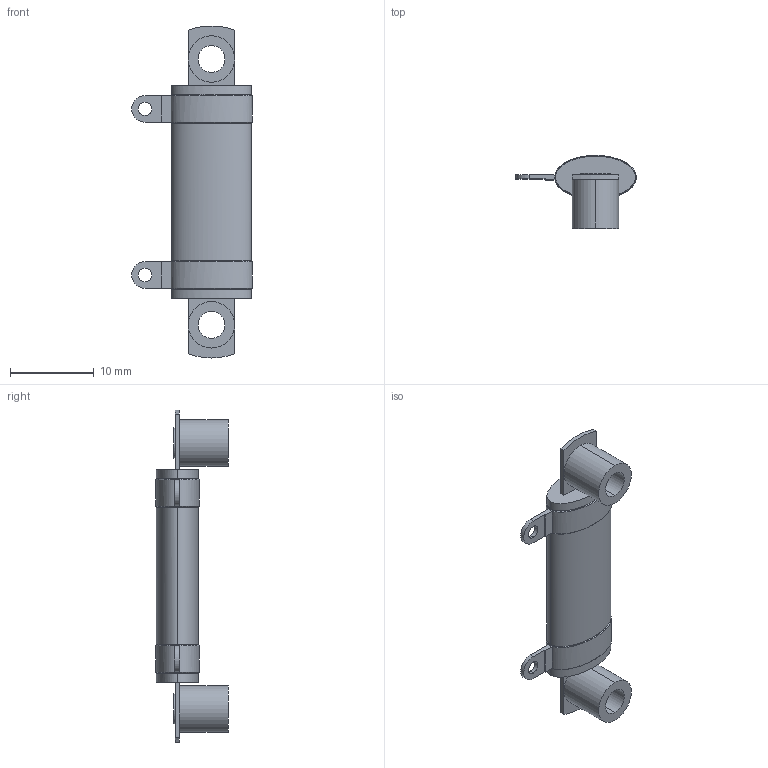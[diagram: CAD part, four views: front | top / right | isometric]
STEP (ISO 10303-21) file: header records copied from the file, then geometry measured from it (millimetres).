
FILE_DESCRIPTION (( 'STEP AP214' ), '1' );
FILE_NAME ('HLM015.STEP', '2014-03-13T13:30:49', ( '' ), ( '' ), 'SwSTEP 2.0', 'SolidWorks 2012', '' );
FILE_SCHEMA (( 'AUTOMOTIVE_DESIGN' ));
Length unit declared in the file: millimetre
Products named in the file (1): HLM015
Bounding box: 14.38 x 8.7 x 39.65 mm (x, y, z)
Volume: 1197.5 mm3; surface area: 1213.6 mm2
Topology: 1 solids, 1 shells, 69 faces, 165 edges, 106 vertices
Faces by surface type: plane 32, cylinder 21, bspline 16
Entity records: 8652 total; most frequent: CARTESIAN_POINT 6547, ORIENTED_EDGE 330, DIRECTION 275, EDGE_CURVE 165, VERTEX_POINT 106, AXIS2_PLACEMENT_3D 100, EDGE_LOOP 85, VECTOR 75
